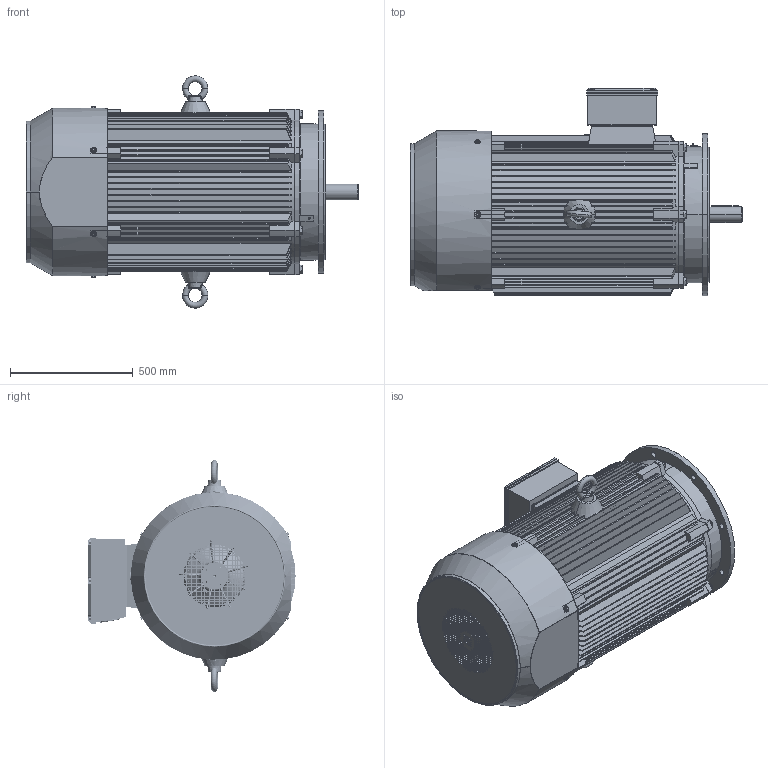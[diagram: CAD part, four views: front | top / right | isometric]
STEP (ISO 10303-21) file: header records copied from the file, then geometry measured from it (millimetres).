
FILE_DESCRIPTION (( 'STEP AP203' ), '1' );
FILE_NAME ('Motor-315M-2_B5_Step.STEP', '2024-06-26T10:37:16', ( '' ), ( '' ), 'SwSTEP 2.0', 'SolidWorks 2021', '' );
FILE_SCHEMA (( 'CONFIG_CONTROL_DESIGN' ));
Length unit declared in the file: millimetre
Products named in the file (23): TE315-2____B5_____^Motor-315M-2_B5_Step(2)_Motor-315M-2_B5_Step; TC 315L ____ B5_____^Motor-315M-2_B5_Step(2)_Motor-315M-2_B5_Step; M20-70_____^Motor-315M-2_B5_Step(2)_Motor-315M-2_B5_Step; M10-90_____^Motor-315M-2_B5_Step(2)_Motor-315M-2_B5_Step; TE315-2_____________^Motor-315M-2_B5_Step(2)_Motor-315M-2_B5_Step; TE315-2_________^Motor-315M-2_B5_Step(2)_Motor-315M-2_B5_Step; TE315-2_____________-0^Motor-315M-2_B5_Step(2)_Motor-315M-2_B5_Step; TX315_______________^Motor-315M-2_B5_Step(2)_Motor-315M-2_B5_Step; ___________________^Motor-315M-2_B5_Step(2)_Motor-315M-2_B5_Step; TE315-2_________-2^Motor-315M-2_B5_Step(2)_Motor-315M-2_B5_Step; TC 315_____________-1^Motor-315M-2_B5_Step(2)_Motor-315M-2_B5_Step; ____M30_____^Motor-315M-2_B5_Step(2)_Motor-315M-2_B5_Step; ___________^Motor-315M-2_B5_Step(2)_Motor-315M-2_B5_Step; Motor-315M-2_B5_Step(2)^Motor-315M-2_B5_Step; TC 315_____________^Motor-315M-2_B5_Step(2)_Motor-315M-2_B5_Step; M63_________^Motor-315M-2_B5_Step(2)_Motor-315M-2_B5_Step; TC 315L-2 _______^Motor-315M-2_B5_Step(2)_Motor-315M-2_B5_Step; ____110-85-12_____^Motor-315M-2_B5_Step(2)_Motor-315M-2_B5_Step; TC 315-4_________^Motor-315M-2_B5_Step(2)_Motor-315M-2_B5_Step; TX315___________________^Motor-315M-2_B5_Step(2)_Motor-315M-2_B5_Step; M10-25_____^Motor-315M-2_B5_Step(2)_Motor-315M-2_B5_Step; _________^Motor-315M-2_B5_Step(2)_Motor-315M-2_B5_Step; Motor-315M-2_B5_Step
Assembly tree (44 placements, depth 3):
  Motor-315M-2_B5_Step
    Motor-315M-2_B5_Step(2)^Motor-315M-2_B5_Step
      TX315___________________^Motor-315M-2_B5_Step(2)_Motor-315M-2_B5_Step
      M20-70_____^Motor-315M-2_B5_Step(2)_Motor-315M-2_B5_Step  x6
      ___________________^Motor-315M-2_B5_Step(2)_Motor-315M-2_B5_Step  x6
      TC 315-4_________^Motor-315M-2_B5_Step(2)_Motor-315M-2_B5_Step
      M10-25_____^Motor-315M-2_B5_Step(2)_Motor-315M-2_B5_Step  x6
      ____110-85-12_____^Motor-315M-2_B5_Step(2)_Motor-315M-2_B5_Step
      TC 315L ____ B5_____^Motor-315M-2_B5_Step(2)_Motor-315M-2_B5_Step
      TE315-2_________^Motor-315M-2_B5_Step(2)_Motor-315M-2_B5_Step
      ___________^Motor-315M-2_B5_Step(2)_Motor-315M-2_B5_Step  x2
      _________^Motor-315M-2_B5_Step(2)_Motor-315M-2_B5_Step
      TE315-2_____________^Motor-315M-2_B5_Step(2)_Motor-315M-2_B5_Step  x2
      TE315-2_____________-0^Motor-315M-2_B5_Step(2)_Motor-315M-2_B5_Step
      TC 315_____________^Motor-315M-2_B5_Step(2)_Motor-315M-2_B5_Step
      M10-90_____^Motor-315M-2_B5_Step(2)_Motor-315M-2_B5_Step  x4
      TX315_______________^Motor-315M-2_B5_Step(2)_Motor-315M-2_B5_Step
      TC 315_____________-1^Motor-315M-2_B5_Step(2)_Motor-315M-2_B5_Step
      TE315-2_________-2^Motor-315M-2_B5_Step(2)_Motor-315M-2_B5_Step
      ____M30_____^Motor-315M-2_B5_Step(2)_Motor-315M-2_B5_Step  x2
      TC 315L-2 _______^Motor-315M-2_B5_Step(2)_Motor-315M-2_B5_Step
      M63_________^Motor-315M-2_B5_Step(2)_Motor-315M-2_B5_Step  x2
      TE315-2____B5_____^Motor-315M-2_B5_Step(2)_Motor-315M-2_B5_Step
Bounding box: 1352 x 844 x 946 mm (x, y, z)
Volume: 60275216.8 mm3; surface area: 12487441.2 mm2
Topology: 45 solids, 45 shells, 7767 faces, 22017 edges, 14491 vertices
Faces by surface type: plane 3905, cylinder 3064, cone 460, torus 240, bspline 90, sphere 8
Entity records: 263979 total; most frequent: CARTESIAN_POINT 67457, ORIENTED_EDGE 41368, DIRECTION 39794, EDGE_CURVE 20684, AXIS2_PLACEMENT_3D 13742, VERTEX_POINT 13664, VECTOR 12310, LINE 12310
